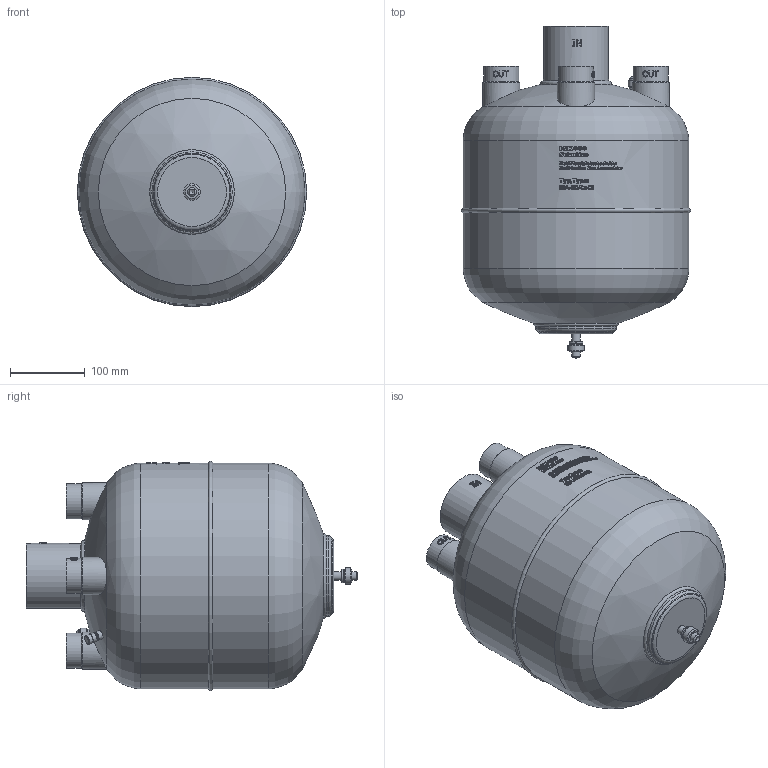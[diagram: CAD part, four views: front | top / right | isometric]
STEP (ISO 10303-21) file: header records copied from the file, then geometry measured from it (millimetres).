
FILE_DESCRIPTION(/* description */ (''),/* implementation_level */ '2;1');
FILE_NAME(/* name */ 'P:\MA\MA-80_4x42\MA-80_4x42.stp',/* time_stamp */ '2017-10-05T08:40:08+02:00',/* author */ ('neufeld'),/* organization */ (''),/* preprocessor_version */ 'ST-DEVELOPER v16.1',/* originating_system */ 'Autodesk Inventor 2016',/* authorisation */ '');
FILE_SCHEMA (('AUTOMOTIVE_DESIGN { 1 0 10303 214 3 1 1 }'));
Length unit declared in the file: millimetre
Products named in the file (2): MA-80_4x42; MA-80_4x42_1
Assembly tree (1 placements, depth 2):
  MA-80_4x42_1
    MA-80_4x42
Bounding box: 306.64 x 443.85 x 306.64 mm (x, y, z)
Volume: 20397689.9 mm3; surface area: 444305.4 mm2
Topology: 2 solids, 5 shells, 1609 faces, 4312 edges, 2869 vertices
Faces by surface type: plane 865, bspline 538, cylinder 175, cone 19, torus 10, sphere 2
Full cylindrical faces by diameter (mm): 3.7 x1, 4 x1, 4.64 x1, 5.4 x1, 7.2 x1, 8.9 x2, 9.8 x1, 10 x1, 12 x3, 12.3 x1, 12.7 x1, 12.9 x1, 13.5 x1, 15.7 x1, 16 x1, 21.939 x1, 42.2 x4, 47 x4, 50 x4, 80.3 x1, 87 x1, 107.506 x1, 302 x2
Entity records: 61230 total; most frequent: CARTESIAN_POINT 23930, ORIENTED_EDGE 8448, DIRECTION 6408, EDGE_CURVE 4224, VERTEX_POINT 2846, AXIS2_PLACEMENT_3D 2193, LINE 2022, VECTOR 2022
